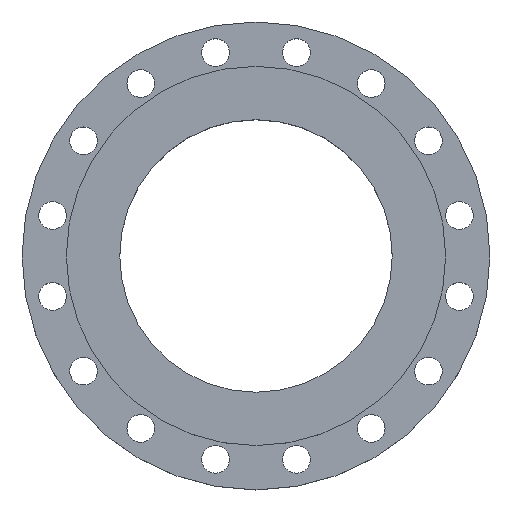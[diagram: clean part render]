
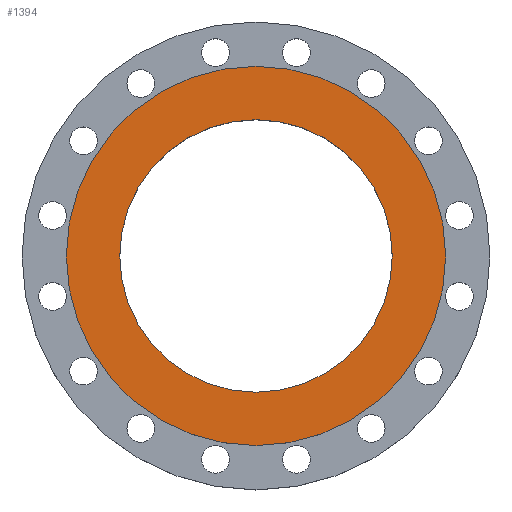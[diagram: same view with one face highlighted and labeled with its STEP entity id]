
A CAD part, top view. The second image highlights one B-rep face of the part: STEP entity #1394.
In plain terms, the highlighted planar face has unit normal (0, 0, 1).
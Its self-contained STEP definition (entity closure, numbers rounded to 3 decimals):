
#57 = CARTESIAN_POINT ( 'NONE',  ( 267.5, 0., 11. ) ) ;
#107 = DIRECTION ( 'NONE',  ( 0., 0., 1. ) ) ;
#141 = CARTESIAN_POINT ( 'NONE',  ( -192.2, 0., 11. ) ) ;
#164 = DIRECTION ( 'NONE',  ( 1., 0., 0. ) ) ;
#214 = CIRCLE ( 'NONE', #1059, 192.2 ) ;
#300 = VERTEX_POINT ( 'NONE', #141 ) ;
#302 = EDGE_LOOP ( 'NONE', ( #475, #473 ) ) ;
#311 = FACE_BOUND ( 'NONE', #302, .T. ) ;
#452 = VERTEX_POINT ( 'NONE', #57 ) ;
#473 = ORIENTED_EDGE ( 'NONE', *, *, #1624, .F. ) ;
#475 = ORIENTED_EDGE ( 'NONE', *, *, #1496, .F. ) ;
#476 = ORIENTED_EDGE ( 'NONE', *, *, #1214, .T. ) ;
#477 = ORIENTED_EDGE ( 'NONE', *, *, #1355, .T. ) ;
#507 = DIRECTION ( 'NONE',  ( 1., 0., 0. ) ) ;
#629 = CIRCLE ( 'NONE', #1183, 267.5 ) ;
#645 = DIRECTION ( 'NONE',  ( 1., 0., 0. ) ) ;
#648 = CARTESIAN_POINT ( 'NONE',  ( 0., 0., 11. ) ) ;
#744 = AXIS2_PLACEMENT_3D ( 'NONE', #1528, #107, #827 ) ;
#827 = DIRECTION ( 'NONE',  ( 1., 0., 0. ) ) ;
#951 = AXIS2_PLACEMENT_3D ( 'NONE', #648, #1235, #1637 ) ;
#995 = VERTEX_POINT ( 'NONE', #1460 ) ;
#1044 = PLANE ( 'NONE',  #744 ) ;
#1059 = AXIS2_PLACEMENT_3D ( 'NONE', #1346, #1704, #645 ) ;
#1089 = CARTESIAN_POINT ( 'NONE',  ( 0., 0., 11. ) ) ;
#1183 = AXIS2_PLACEMENT_3D ( 'NONE', #1259, #1664, #507 ) ;
#1214 = EDGE_CURVE ( 'NONE', #995, #452, #1224, .T. ) ;
#1224 = CIRCLE ( 'NONE', #951, 267.5 ) ;
#1235 = DIRECTION ( 'NONE',  ( 0., 0., 1. ) ) ;
#1259 = CARTESIAN_POINT ( 'NONE',  ( 0., 0., 11. ) ) ;
#1311 = VERTEX_POINT ( 'NONE', #1515 ) ;
#1324 = EDGE_LOOP ( 'NONE', ( #477, #476 ) ) ;
#1346 = CARTESIAN_POINT ( 'NONE',  ( 0., 0., 11. ) ) ;
#1355 = EDGE_CURVE ( 'NONE', #452, #995, #629, .T. ) ;
#1394 = ADVANCED_FACE ( 'NONE', ( #1586, #311 ), #1044, .T. ) ;
#1435 = AXIS2_PLACEMENT_3D ( 'NONE', #1089, #1544, #164 ) ;
#1436 = CIRCLE ( 'NONE', #1435, 192.2 ) ;
#1460 = CARTESIAN_POINT ( 'NONE',  ( -267.5, 0., 11. ) ) ;
#1496 = EDGE_CURVE ( 'NONE', #1311, #300, #1436, .T. ) ;
#1515 = CARTESIAN_POINT ( 'NONE',  ( 192.2, 0., 11. ) ) ;
#1528 = CARTESIAN_POINT ( 'NONE',  ( 267.5, 0., 11. ) ) ;
#1544 = DIRECTION ( 'NONE',  ( 0., 0., 1. ) ) ;
#1586 = FACE_OUTER_BOUND ( 'NONE', #1324, .T. ) ;
#1624 = EDGE_CURVE ( 'NONE', #300, #1311, #214, .T. ) ;
#1637 = DIRECTION ( 'NONE',  ( 1., 0., 0. ) ) ;
#1664 = DIRECTION ( 'NONE',  ( 0., 0., 1. ) ) ;
#1704 = DIRECTION ( 'NONE',  ( 0., 0., 1. ) ) ;
